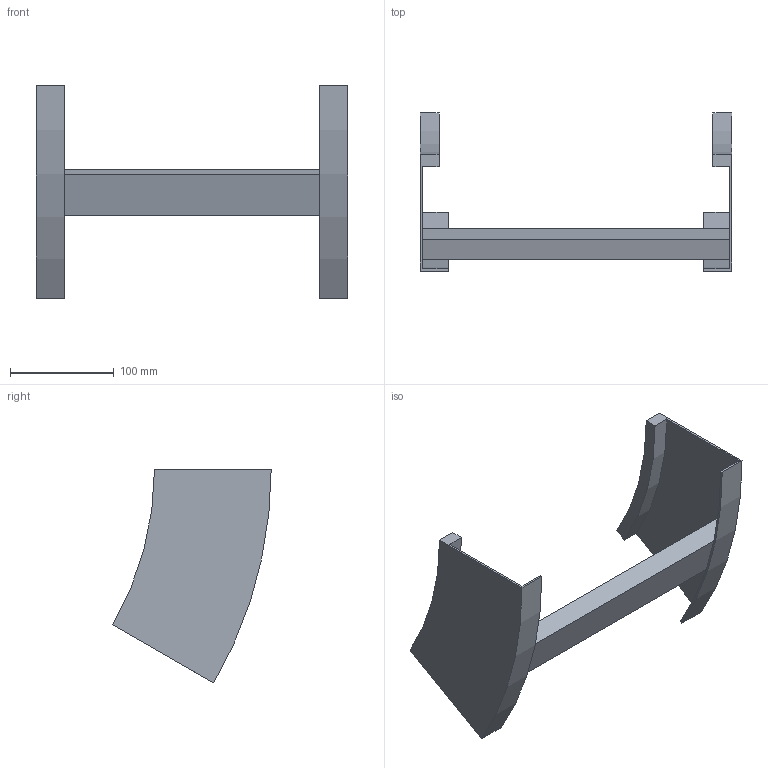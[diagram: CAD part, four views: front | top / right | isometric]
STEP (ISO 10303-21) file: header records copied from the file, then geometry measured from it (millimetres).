
FILE_DESCRIPTION (( 'STEP AP214' ), '1' );
FILE_NAME ('B2X32B3J300XX.step', '2025-03-20T10:00:20', ( '' ), ( '' ), 'SwSTEP 2.0', 'SolidWorks 2023', '' );
FILE_SCHEMA (( 'AUTOMOTIVE_DESIGN' ));
Length unit declared in the file: millimetre
Products named in the file (3): B2X32B3J300XX; TRAVERSINO_300; B2_LONGH.SALITA_30°_H112.5_R300
Assembly tree (3 placements, depth 2):
  B2X32B3J300XX
    B2_LONGH.SALITA_30°_H112.5_R300  x2
    TRAVERSINO_300
Bounding box: 300 x 152.69 x 206.25 mm (x, y, z)
Volume: 406770.5 mm3; surface area: 156535.9 mm2
Topology: 3 solids, 3 shells, 26 faces, 60 edges, 40 vertices
Faces by surface type: plane 18, cylinder 8
Entity records: 544 total; most frequent: DIRECTION 88, CARTESIAN_POINT 82, ORIENTED_EDGE 72, EDGE_CURVE 36, AXIS2_PLACEMENT_3D 30, VECTOR 28, LINE 28, VERTEX_POINT 24
